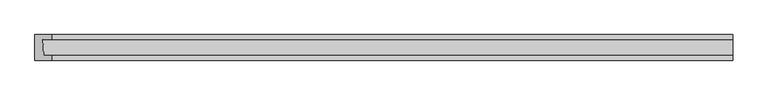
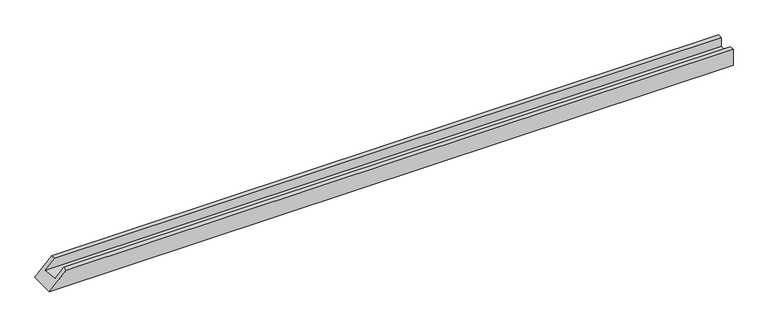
"""IFC4 building model written with IfcOpenShell, lengths in millimetres: proxy geometry, Weiku - Montante - Caixilho duplo 02.2.01.002 : Weiku - Montante - Caixilho duplo 02.2.01.002."""

from ifc_helpers import new_model, si_unit, origin, place, context, project, spatial, faceted_brep, source, transform, mapped, element, save


def generic_models_27750f41(model_context):
    return source(origin(), model_context, "Body", "Brep", [
        faceted_brep([(1047.5, 15.0, 52.0), (1047.5, 15.0, 26.0), (-1021.5, 15.0, 26.0), (-995.5, 15.0, 52.0), (1047.5, 62.0, 23.7770256), (-1023.7229744, 62.0, 23.7770256), (1047.5, 62.0, 52.0), (-995.5, 62.0, 52.0), (1047.5, 77.0, 52.0), (-995.5, 77.0, 52.0), (1047.5, 77.0, 0.0), (-1047.5, 77.0, 0.0), (1047.5, 0.0, 0.0), (-1047.5, 0.0, 0.0), (1047.5, 0.0, 52.0), (-995.5, 0.0, 52.0)], [[[0, 1, 2, 3]], [[1, 4, 5, 2]], [[4, 6, 7, 5]], [[6, 8, 9, 7]], [[8, 10, 11, 9]], [[10, 12, 13, 11]], [[12, 14, 15, 13]], [[14, 0, 3, 15]], [[3, 2, 5, 7, 9, 11, 13, 15]], [[0, 14, 12, 10, 8, 6, 4, 1]]]),
    ])


if __name__ == "__main__":
    model = new_model("IFC4")
    model_context = context("Model", 3, world=origin())
    ifc_project = project(units=[si_unit("LENGTHUNIT", "METRE", prefix="MILLI")], contexts=[model_context])
    site = spatial("IfcSite", under=ifc_project)
    building = spatial("IfcBuilding", under=site)
    placement = place(None, origin())
    generic_models_shape = generic_models_27750f41(model_context)
    element("IfcBuildingElementProxy", 1, Name="Weiku - Montante - Caixilho duplo 02.2.01.002 : Weiku - Montante - Caixilho duplo 02.2.01.002", ObjectType="Weiku - Montante - Caixilho duplo 02.2.01.002 : Weiku - Montante - Caixilho duplo 02.2.01.002", at=placement, inside=building, context=model_context, shape_type="MappedRepresentation", body=[
        mapped(generic_models_shape, transform((0.0, 0.0, 0.0), x_axis=(1.0, 0.0, 0.0), y_axis=(0.0, 1.0, 0.0), z_axis=(0.0, 0.0, 1.0))),
    ])
    save(model, "model.ifc")
